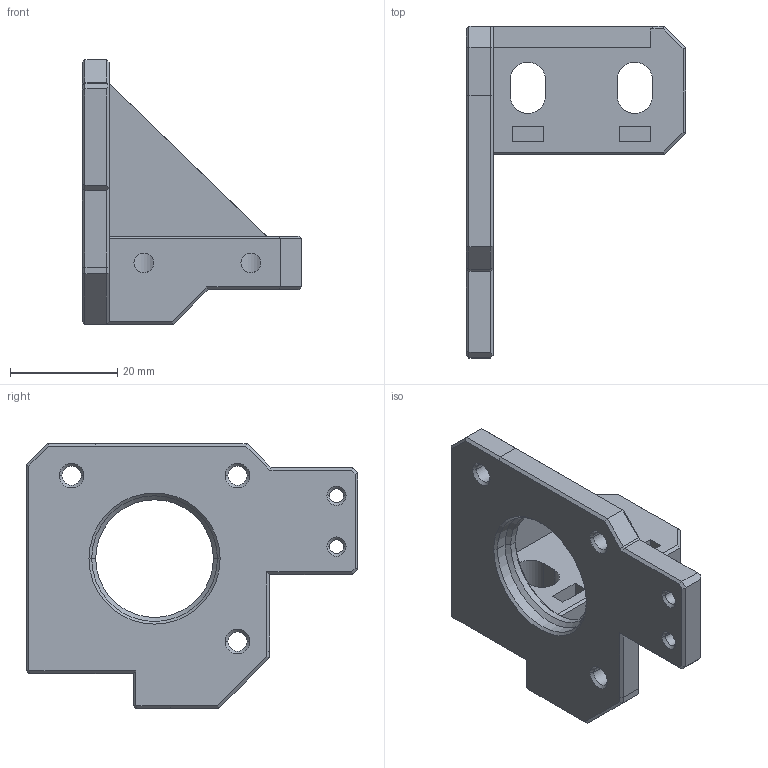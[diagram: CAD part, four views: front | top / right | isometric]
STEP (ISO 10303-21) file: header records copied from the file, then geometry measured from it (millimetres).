
FILE_DESCRIPTION(('CATIA V5 STEP Exchange'),'2;1');
FILE_NAME('D:\_이전 노트북\Cremaker모델링\Cremaker_profile-Metal(5차)-(Final)\Y-motor-block.stp','2020-10-23T05:18:40+00:00',('none'),('none'),'CATIA Version 5 Release 20 GA (IN-10)','CATIA V5 STEP AP203','none');
FILE_SCHEMA(('CONFIG_CONTROL_DESIGN'));
Length unit declared in the file: millimetre
Products named in the file (1): Y-motor-block
Bounding box: 41 x 62 x 49.5 mm (x, y, z)
Volume: 18685.9 mm3; surface area: 9321.6 mm2
Topology: 1 solids, 1 shells, 136 faces, 330 edges, 198 vertices
Faces by surface type: plane 88, cylinder 26, cone 22
Entity records: 3797 total; most frequent: CARTESIAN_POINT 742, ORIENTED_EDGE 660, DIRECTION 514, EDGE_CURVE 330, VECTOR 216, LINE 216, VERTEX_POINT 198, AXIS2_PLACEMENT_3D 184
